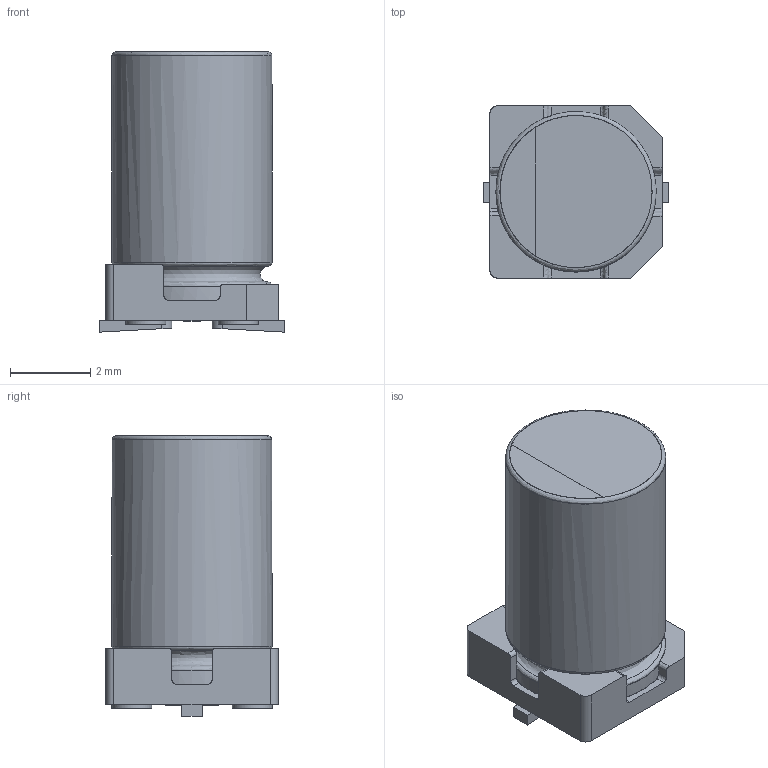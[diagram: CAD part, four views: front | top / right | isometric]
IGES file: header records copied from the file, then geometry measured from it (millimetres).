
Start section: JAMA-IS VERSION  1.0
Bounding box: 4.6 x 4.3 x 7 mm (x, y, z)
Surface area: 174.5 mm2 (no closed solid volume)
Topology: 0 solids, 0 shells, 81 faces, 922 edges, 904 vertices
Faces by surface type: bspline 81
